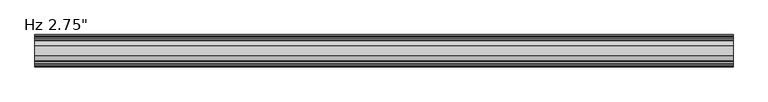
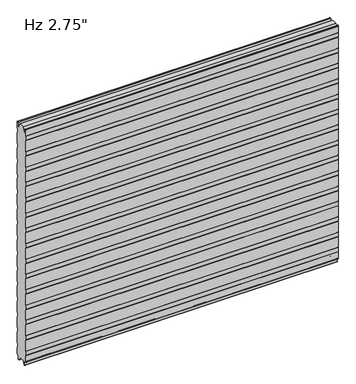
"""IFC4 building model written with IfcOpenShell, lengths in millimetres: plate geometry."""

from ifc_helpers import new_model, si_unit, frame, origin, place, context, project, spatial, polyline, circle_curve, source, transform, mapped, element, save
from ifc_brep_helpers import plane_surface, cylinder_surface, revolved_surface, advanced_brep


def plate_b61ff593(model_context):
    return source(origin(), model_context, "Body", "AdvancedBrep", [
        advanced_brep(
        [(-730.0, -67.7088405, 1097.7830195), (-730.0, -67.7088405, 1117.5660142), (-730.0, -68.8999956, 1118.6385351), (-730.0, -68.8999956, 1150.8100652), (-730.0, -66.9227271, 1152.7873337), (-730.0, -65.8806285, 1152.7873337), (-730.0, -63.90336, 1150.8100652), (-730.0, -63.90336, 1136.6216802), (-730.0, -61.3154835, 1134.0338036), (-730.0, -56.9950653, 1134.0338036), (-730.0, -56.4060718, 1133.4253365), (-730.0, -56.4060718, 1131.0482432), (-730.0, -55.4065979, 1131.0482432), (-730.0, -55.4065979, 1136.4905123), (-730.0, -46.1490821, 1152.525), (-730.0, -23.7509179, 1152.525), (-730.0, -14.4934021, 1136.4905123), (-730.0, -14.4934021, 1131.0482432), (-730.0, -13.4939282, 1131.0482432), (-730.0, -13.4939282, 1133.4253365), (-730.0, -12.9049347, 1134.0338036), (-730.0, -8.5845165, 1134.0338036), (-730.0, -5.99664, 1136.6216802), (-730.0, -5.99664, 1150.8100652), (-730.0, -4.0193715, 1152.7873337), (-730.0, -2.9772729, 1152.7873337), (-730.0, -1.0000044, 1150.8100652), (-730.0, -1.0000044, 1118.6385351), (-730.0, -2.1911595, 1117.5660142), (-730.0, -2.1911595, 1097.7830195), (-730.0, -1.0, 1096.7104947), (-730.0, -1.0, 1043.0159187), (-730.0, -2.1911595, 1041.9433939), (-730.0, -2.1911595, 1022.1603992), (-730.0, -1.0, 1021.0878744), (-730.0, -1.0, 967.3932985), (-730.0, -2.1911595, 966.3207736), (-730.0, -2.1911595, 946.537779), (-730.0, -1.0, 945.4652541), (-730.0, -1.0, 891.7706782), (-730.0, -2.1911595, 890.6981534), (-730.0, -2.1911595, 870.9151587), (-730.0, -1.0, 869.8426339), (-730.0, -1.0, 816.148058), (-730.0, -2.1911595, 815.0755331), (-730.0, -2.1911595, 795.2925384), (-730.0, -1.0, 794.2200136), (-730.0, -1.0, 740.5254377), (-730.0, -2.1911595, 739.4529129), (-730.0, -2.1911595, 719.6699182), (-730.0, -1.0, 718.5973933), (-730.0, -1.0, 664.9028174), (-730.0, -2.1911595, 663.8302926), (-730.0, -2.1911595, 644.0472979), (-730.0, -1.0, 642.9747731), (-730.0, -1.0, 589.2801972), (-730.0, -2.1911595, 588.2076723), (-730.0, -2.1911595, 568.4246776), (-730.0, -1.0, 567.3521528), (-730.0, -1.0, 513.6575769), (-730.0, -2.1911595, 512.5850521), (-730.0, -2.1911595, 492.8020574), (-730.0, -1.0, 491.7295325), (-730.0, -1.0, 438.0349566), (-730.0, -2.1911595, 436.9624318), (-730.0, -2.1911595, 417.1794371), (-730.0, -1.0, 416.1069123), (-730.0, -1.0, 362.4123364), (-730.0, -2.1911595, 361.3398115), (-730.0, -2.1911595, 341.5568169), (-730.0, -1.0, 340.484292), (-730.0, -1.0, 286.7897161), (-730.0, -2.1911595, 285.7171913), (-730.0, -2.1911595, 265.9341966), (-730.0, -1.0, 264.8616718), (-730.0, -1.0, 211.1670958), (-730.0, -2.1911595, 210.094571), (-730.0, -2.1911595, 190.3115763), (-730.0, -1.0, 189.2390515), (-730.0, -1.0, 135.5444756), (-730.0, -2.1911595, 134.4719507), (-730.0, -2.1911595, 114.6889561), (-730.0, -1.0, 113.6164312), (-730.0, -1.0, 59.9218553), (-730.0, -2.1911595, 58.8493305), (-730.0, -2.1911595, 39.0663358), (-730.0, -1.0000109, 37.993811), (-730.0, -1.0000109, 5.8272239), (-730.0, -2.9772849, 3.8499499), (-730.0, -5.2691749, 3.8499499), (-730.0, -9.246442, -0.1273173), (-730.0, -9.246442, -15.7237417), (-730.0, -9.8343189, -16.3116186), (-730.0, -12.9058679, -16.3116186), (-730.0, -13.4937446, -15.723742), (-730.0, -13.4937446, -13.3687064), (-730.0, -14.4937446, -13.3687064), (-730.0, -14.4937446, -15.6582851), (-730.0, -23.7509179, 0.0), (-730.0, -46.1490865, 0.0), (-730.0, -55.4062554, -15.6582851), (-730.0, -55.4062554, -13.3687064), (-730.0, -56.4062554, -13.3687064), (-730.0, -56.4062554, -15.723742), (-730.0, -56.9941321, -16.3116186), (-730.0, -60.0656811, -16.3116186), (-730.0, -60.653558, -15.7237417), (-730.0, -60.653558, -0.1273173), (-730.0, -64.6308251, 3.8499499), (-730.0, -66.9227151, 3.8499499), (-730.0, -68.8999891, 5.8272239), (-730.0, -68.8999891, 37.993811), (-730.0, -67.7088405, 39.0663358), (-730.0, -67.7088405, 58.8493305), (-730.0, -68.9, 59.9218553), (-730.0, -68.9, 113.6164312), (-730.0, -67.7088405, 114.6889561), (-730.0, -67.7088405, 134.4719507), (-730.0, -68.9, 135.5444756), (-730.0, -68.9, 189.2390515), (-730.0, -67.7088405, 190.3115763), (-730.0, -67.7088405, 210.094571), (-730.0, -68.9, 211.1670958), (-730.0, -68.9, 264.8616718), (-730.0, -67.7088405, 265.9341966), (-730.0, -67.7088405, 285.7171913), (-730.0, -68.9, 286.7897161), (-730.0, -68.9, 340.484292), (-730.0, -67.7088405, 341.5568169), (-730.0, -67.7088405, 361.3398115), (-730.0, -68.9, 362.4123364), (-730.0, -68.9, 416.1069123), (-730.0, -67.7088405, 417.1794371), (-730.0, -67.7088405, 436.9624318), (-730.0, -68.9, 438.0349566), (-730.0, -68.9, 491.7295325), (-730.0, -67.7088405, 492.8020574), (-730.0, -67.7088405, 512.5850521), (-730.0, -68.9, 513.6575769), (-730.0, -68.9, 567.3521528), (-730.0, -67.7088405, 568.4246776), (-730.0, -67.7088405, 588.2076723), (-730.0, -68.9, 589.2801972), (-730.0, -68.9, 642.9747731), (-730.0, -67.7088405, 644.0472979), (-730.0, -67.7088405, 663.8302926), (-730.0, -68.9, 664.9028174), (-730.0, -68.9, 718.5973933), (-730.0, -67.7088405, 719.6699182), (-730.0, -67.7088405, 739.4529129), (-730.0, -68.9, 740.5254377), (-730.0, -68.9, 794.2200136), (-730.0, -67.7088405, 795.2925384), (-730.0, -67.7088405, 815.0755331), (-730.0, -68.9, 816.148058), (-730.0, -68.9, 869.8426339), (-730.0, -67.7088405, 870.9151587), (-730.0, -67.7088405, 890.6981534), (-730.0, -68.9, 891.7706782), (-730.0, -68.9, 945.4652541), (-730.0, -67.7088405, 946.537779), (-730.0, -67.7088405, 966.3207736), (-730.0, -68.9, 967.3932985), (-730.0, -68.9, 1021.0878744), (-730.0, -67.7088405, 1022.1603992), (-730.0, -67.7088405, 1041.9433939), (-730.0, -68.9, 1043.0159187), (-730.0, -68.9, 1096.7104947), (730.0, -67.7088405, 1097.7830195), (730.0, -68.9, 1096.7104947), (730.0, -68.9, 1043.0159187), (730.0, -67.7088405, 1041.9433939), (730.0, -67.7088405, 1022.1603992), (730.0, -68.9, 1021.0878744), (730.0, -68.9, 967.3932985), (730.0, -67.7088405, 966.3207736), (730.0, -67.7088405, 946.537779), (730.0, -68.9, 945.4652541), (730.0, -68.9, 891.7706782), (730.0, -67.7088405, 890.6981534), (730.0, -67.7088405, 870.9151587), (730.0, -68.9, 869.8426339), (730.0, -68.9, 816.148058), (730.0, -67.7088405, 815.0755331), (730.0, -67.7088405, 795.2925384), (730.0, -68.9, 794.2200136), (730.0, -68.9, 740.5254377), (730.0, -67.7088405, 739.4529129), (730.0, -67.7088405, 719.6699182), (730.0, -68.9, 718.5973933), (730.0, -68.9, 664.9028174), (730.0, -67.7088405, 663.8302926), (730.0, -67.7088405, 644.0472979), (730.0, -68.9, 642.9747731), (730.0, -68.9, 589.2801972), (730.0, -67.7088405, 588.2076723), (730.0, -67.7088405, 568.4246776), (730.0, -68.9, 567.3521528), (730.0, -68.9, 513.6575769), (730.0, -67.7088405, 512.5850521), (730.0, -67.7088405, 492.8020574), (730.0, -68.9, 491.7295325), (730.0, -68.9, 438.0349566), (730.0, -67.7088405, 436.9624318), (730.0, -67.7088405, 417.1794371), (730.0, -68.9, 416.1069123), (730.0, -68.9, 362.4123364), (730.0, -67.7088405, 361.3398115), (730.0, -67.7088405, 341.5568169), (730.0, -68.9, 340.484292), (730.0, -68.9, 286.7897161), (730.0, -67.7088405, 285.7171913), (730.0, -67.7088405, 265.9341966), (730.0, -68.9, 264.8616718), (730.0, -68.9, 211.1670958), (730.0, -67.7088405, 210.094571), (730.0, -67.7088405, 190.3115763), (730.0, -68.9, 189.2390515), (730.0, -68.9, 135.5444756), (730.0, -67.7088405, 134.4719507), (730.0, -67.7088405, 114.6889561), (730.0, -68.9, 113.6164312), (730.0, -68.9, 59.9218553), (730.0, -67.7088405, 58.8493305), (730.0, -67.7088405, 39.0663358), (730.0, -68.8999891, 37.993811), (730.0, -68.8999891, 5.8272239), (730.0, -66.9227151, 3.8499499), (730.0, -64.6308251, 3.8499499), (730.0, -60.653558, -0.1273173), (730.0, -60.653558, -15.7237417), (730.0, -60.0656811, -16.3116186), (730.0, -56.9941321, -16.3116186), (730.0, -56.4062554, -15.723742), (730.0, -56.4062554, -13.3687064), (730.0, -55.4062554, -13.3687064), (730.0, -55.4062554, -15.6582851), (730.0, -46.1490821, 0.0), (730.0, -23.7509179, 0.0), (730.0, -14.4937446, -15.6582851), (730.0, -14.4937446, -13.3687064), (730.0, -13.4937446, -13.3687064), (730.0, -13.4937446, -15.723742), (730.0, -12.9058679, -16.3116186), (730.0, -9.8343189, -16.3116186), (730.0, -9.246442, -15.7237417), (730.0, -9.246442, -0.1273173), (730.0, -5.2691749, 3.8499499), (730.0, -2.9772849, 3.8499499), (730.0, -1.0000109, 5.8272239), (730.0, -1.0000109, 37.993811), (730.0, -2.1911595, 39.0663358), (730.0, -2.1911595, 58.8493305), (730.0, -1.0, 59.9218553), (730.0, -1.0, 113.6164312), (730.0, -2.1911595, 114.6889561), (730.0, -2.1911595, 134.4719507), (730.0, -1.0, 135.5444756), (730.0, -1.0, 189.2390515), (730.0, -2.1911595, 190.3115763), (730.0, -2.1911595, 210.094571), (730.0, -1.0, 211.1670958), (730.0, -1.0, 264.8616718), (730.0, -2.1911595, 265.9341966), (730.0, -2.1911595, 285.7171913), (730.0, -1.0, 286.7897161), (730.0, -1.0, 340.484292), (730.0, -2.1911595, 341.5568169), (730.0, -2.1911595, 361.3398115), (730.0, -1.0, 362.4123364), (730.0, -1.0, 416.1069123), (730.0, -2.1911595, 417.1794371), (730.0, -2.1911595, 436.9624318), (730.0, -1.0, 438.0349566), (730.0, -1.0, 491.7295325), (730.0, -2.1911595, 492.8020574), (730.0, -2.1911595, 512.5850521), (730.0, -1.0, 513.6575769), (730.0, -1.0, 567.3521528), (730.0, -2.1911595, 568.4246776), (730.0, -2.1911595, 588.2076723), (730.0, -1.0, 589.2801972), (730.0, -1.0, 642.9747731), (730.0, -2.1911595, 644.0472979), (730.0, -2.1911595, 663.8302926), (730.0, -1.0, 664.9028174), (730.0, -1.0, 718.5973933), (730.0, -2.1911595, 719.6699182), (730.0, -2.1911595, 739.4529129), (730.0, -1.0, 740.5254377), (730.0, -1.0, 794.2200136), (730.0, -2.1911595, 795.2925384), (730.0, -2.1911595, 815.0755331), (730.0, -1.0, 816.148058), (730.0, -1.0, 869.8426339), (730.0, -2.1911595, 870.9151587), (730.0, -2.1911595, 890.6981534), (730.0, -1.0, 891.7706782), (730.0, -1.0, 945.4652541), (730.0, -2.1911595, 946.537779), (730.0, -2.1911595, 966.3207736), (730.0, -1.0, 967.3932985), (730.0, -1.0, 1021.0878744), (730.0, -2.1911595, 1022.1603992), (730.0, -2.1911595, 1041.9433939), (730.0, -1.0, 1043.0159187), (730.0, -1.0, 1096.7104947), (730.0, -2.1911595, 1097.7830195), (730.0, -2.1911595, 1117.5660142), (730.0, -1.0000044, 1118.6385351), (730.0, -1.0000044, 1150.8100652), (730.0, -2.9772729, 1152.7873337), (730.0, -4.0193715, 1152.7873337), (730.0, -5.99664, 1150.8100652), (730.0, -5.99664, 1136.6216802), (730.0, -8.5845165, 1134.0338036), (730.0, -12.9049347, 1134.0338036), (730.0, -13.4939282, 1133.4253365), (730.0, -13.4939282, 1131.0482432), (730.0, -14.4934021, 1131.0482432), (730.0, -14.4934021, 1136.4905123), (730.0, -23.7509179, 1152.525), (730.0, -46.1490865, 1152.525), (730.0, -55.4065979, 1136.4905123), (730.0, -55.4065979, 1131.0482432), (730.0, -56.4060718, 1131.0482432), (730.0, -56.4060718, 1133.4253365), (730.0, -56.9950653, 1134.0338036), (730.0, -61.3154835, 1134.0338036), (730.0, -63.90336, 1136.6216802), (730.0, -63.90336, 1150.8100652), (730.0, -65.8806285, 1152.7873337), (730.0, -66.9227271, 1152.7873337), (730.0, -68.8999956, 1150.8100652), (730.0, -68.8999956, 1118.6385351), (730.0, -67.7088405, 1117.5660142)],
        [
            (0, 1),
            (1, 2),
            (2, 3),
            (3, 4, circle_curve(frame((-730.0, -66.9227271, 1150.8100652), z_axis=(-1.0, 0.0, 0.0), x_axis=(0.0, 0.0, -1.0)), 1.9772685)),
            (4, 5),
            (5, 6, circle_curve(frame((-730.0, -65.8806285, 1150.8100652), z_axis=(-1.0, 0.0, 0.0), x_axis=(0.0, 0.0, -1.0)), 1.9772685)),
            (6, 7),
            (7, 8, circle_curve(frame((-730.0, -61.3154835, 1136.6216802), z_axis=(1.0, 0.0, 0.0), x_axis=(0.0, 0.0, -1.0)), 2.5878765)),
            (8, 9),
            (9, 10, circle_curve(frame((-730.0, -56.9950653, 1133.4444985), z_axis=(-1.0, 0.0, 0.0), x_axis=(0.0, 0.0, -1.0)), 0.5893051)),
            (10, 11),
            (11, 12),
            (12, 13),
            (13, 14),
            (14, 15),
            (15, 16),
            (16, 17),
            (17, 18),
            (18, 19),
            (19, 20, circle_curve(frame((-730.0, -12.9049347, 1133.4444985), z_axis=(-1.0, 0.0, 0.0), x_axis=(0.0, 1.0, 0.0)), 0.5893051)),
            (20, 21),
            (21, 22, circle_curve(frame((-730.0, -8.5845165, 1136.6216802), z_axis=(1.0, 0.0, 0.0), x_axis=(0.0, 1.0, 0.0)), 2.5878765)),
            (22, 23),
            (23, 24, circle_curve(frame((-730.0, -4.0193715, 1150.8100652), z_axis=(-1.0, 0.0, 0.0), x_axis=(0.0, 1.0, 0.0)), 1.9772685)),
            (24, 25),
            (25, 26, circle_curve(frame((-730.0, -2.9772729, 1150.8100652), z_axis=(-1.0, 0.0, 0.0), x_axis=(0.0, 1.0, 0.0)), 1.9772685)),
            (26, 27),
            (27, 28),
            (28, 29),
            (29, 30),
            (30, 31),
            (31, 32),
            (32, 33),
            (33, 34),
            (34, 35),
            (35, 36),
            (36, 37),
            (37, 38),
            (38, 39),
            (39, 40),
            (40, 41),
            (41, 42),
            (42, 43),
            (43, 44),
            (44, 45),
            (45, 46),
            (46, 47),
            (47, 48),
            (48, 49),
            (49, 50),
            (50, 51),
            (51, 52),
            (52, 53),
            (53, 54),
            (54, 55),
            (55, 56),
            (56, 57),
            (57, 58),
            (58, 59),
            (59, 60),
            (60, 61),
            (61, 62),
            (62, 63),
            (63, 64),
            (64, 65),
            (65, 66),
            (66, 67),
            (67, 68),
            (68, 69),
            (69, 70),
            (70, 71),
            (71, 72),
            (72, 73),
            (73, 74),
            (74, 75),
            (75, 76),
            (76, 77),
            (77, 78),
            (78, 79),
            (79, 80),
            (80, 81),
            (81, 82),
            (82, 83),
            (83, 84),
            (84, 85),
            (85, 86),
            (86, 87),
            (87, 88, circle_curve(frame((-730.0, -2.9772849, 5.8272239), z_axis=(-1.0, 0.0, 0.0), x_axis=(0.0, 1.0, 0.0)), 1.977274)),
            (88, 89),
            (89, 90, circle_curve(frame((-730.0, -5.2691749, -0.1273173), z_axis=(1.0, 0.0, 0.0), x_axis=(0.0, 1.0, 0.0)), 3.9772671)),
            (90, 91),
            (91, 92, circle_curve(frame((-730.0, -9.8343189, -15.7237417), z_axis=(-1.0, 0.0, 0.0), x_axis=(0.0, 1.0, 0.0)), 0.5878769)),
            (92, 93),
            (93, 94, circle_curve(frame((-730.0, -12.9058679, -15.723742), z_axis=(-1.0, 0.0, 0.0), x_axis=(0.0, 1.0, 0.0)), 0.5878766)),
            (94, 95),
            (95, 96),
            (96, 97),
            (97, 98),
            (98, 99),
            (99, 100),
            (100, 101),
            (101, 102),
            (102, 103),
            (103, 104, circle_curve(frame((-730.0, -56.9941321, -15.723742), z_axis=(-1.0, 0.0, 0.0), x_axis=(0.0, 0.0, -1.0)), 0.5878766)),
            (104, 105),
            (105, 106, circle_curve(frame((-730.0, -60.0656811, -15.7237417), z_axis=(-1.0, 0.0, 0.0), x_axis=(0.0, 0.0, -1.0)), 0.5878769)),
            (106, 107),
            (107, 108, circle_curve(frame((-730.0, -64.6308251, -0.1273173), z_axis=(1.0, 0.0, 0.0), x_axis=(0.0, 0.0, -1.0)), 3.9772671)),
            (108, 109),
            (109, 110, circle_curve(frame((-730.0, -66.9227151, 5.8272239), z_axis=(-1.0, 0.0, 0.0), x_axis=(0.0, 0.0, -1.0)), 1.977274)),
            (110, 111),
            (111, 112),
            (112, 113),
            (113, 114),
            (114, 115),
            (115, 116),
            (116, 117),
            (117, 118),
            (118, 119),
            (119, 120),
            (120, 121),
            (121, 122),
            (122, 123),
            (123, 124),
            (124, 125),
            (125, 126),
            (126, 127),
            (127, 128),
            (128, 129),
            (129, 130),
            (130, 131),
            (131, 132),
            (132, 133),
            (133, 134),
            (134, 135),
            (135, 136),
            (136, 137),
            (137, 138),
            (138, 139),
            (139, 140),
            (140, 141),
            (141, 142),
            (142, 143),
            (143, 144),
            (144, 145),
            (145, 146),
            (146, 147),
            (147, 148),
            (148, 149),
            (149, 150),
            (150, 151),
            (151, 152),
            (152, 153),
            (153, 154),
            (154, 155),
            (155, 156),
            (156, 157),
            (157, 158),
            (158, 159),
            (159, 160),
            (160, 161),
            (161, 162),
            (162, 163),
            (163, 164),
            (164, 165),
            (165, 166),
            (166, 167),
            (167, 0),
            (168, 169),
            (169, 170),
            (170, 171),
            (171, 172),
            (172, 173),
            (173, 174),
            (174, 175),
            (175, 176),
            (176, 177),
            (177, 178),
            (178, 179),
            (179, 180),
            (180, 181),
            (181, 182),
            (182, 183),
            (183, 184),
            (184, 185),
            (185, 186),
            (186, 187),
            (187, 188),
            (188, 189),
            (189, 190),
            (190, 191),
            (191, 192),
            (192, 193),
            (193, 194),
            (194, 195),
            (195, 196),
            (196, 197),
            (197, 198),
            (198, 199),
            (199, 200),
            (200, 201),
            (201, 202),
            (202, 203),
            (203, 204),
            (204, 205),
            (205, 206),
            (206, 207),
            (207, 208),
            (208, 209),
            (209, 210),
            (210, 211),
            (211, 212),
            (212, 213),
            (213, 214),
            (214, 215),
            (215, 216),
            (216, 217),
            (217, 218),
            (218, 219),
            (219, 220),
            (220, 221),
            (221, 222),
            (222, 223),
            (223, 224),
            (224, 225),
            (225, 226),
            (226, 227, circle_curve(frame((730.0, -66.9227151, 5.8272239), z_axis=(1.0, 0.0, 0.0), x_axis=(0.0, 0.0, -1.0)), 1.977274)),
            (227, 228),
            (228, 229, circle_curve(frame((730.0, -64.6308251, -0.1273173), z_axis=(-1.0, 0.0, 0.0), x_axis=(0.0, 0.0, -1.0)), 3.9772671)),
            (229, 230),
            (230, 231, circle_curve(frame((730.0, -60.0656811, -15.7237417), z_axis=(1.0, 0.0, 0.0), x_axis=(0.0, 0.0, -1.0)), 0.5878769)),
            (231, 232),
            (232, 233, circle_curve(frame((730.0, -56.9941321, -15.723742), z_axis=(1.0, 0.0, 0.0), x_axis=(0.0, 0.0, -1.0)), 0.5878766)),
            (233, 234),
            (234, 235),
            (235, 236),
            (236, 237),
            (237, 238),
            (238, 239),
            (239, 240),
            (240, 241),
            (241, 242),
            (242, 243, circle_curve(frame((730.0, -12.9058679, -15.723742), z_axis=(1.0, 0.0, 0.0), x_axis=(0.0, 1.0, 0.0)), 0.5878766)),
            (243, 244),
            (244, 245, circle_curve(frame((730.0, -9.8343189, -15.7237417), z_axis=(1.0, 0.0, 0.0), x_axis=(0.0, 1.0, 0.0)), 0.5878769)),
            (245, 246),
            (246, 247, circle_curve(frame((730.0, -5.2691749, -0.1273173), z_axis=(-1.0, 0.0, 0.0), x_axis=(0.0, 1.0, 0.0)), 3.9772671)),
            (247, 248),
            (248, 249, circle_curve(frame((730.0, -2.9772849, 5.8272239), z_axis=(1.0, 0.0, 0.0), x_axis=(0.0, 1.0, 0.0)), 1.977274)),
            (249, 250),
            (250, 251),
            (251, 252),
            (252, 253),
            (253, 254),
            (254, 255),
            (255, 256),
            (256, 257),
            (257, 258),
            (258, 259),
            (259, 260),
            (260, 261),
            (261, 262),
            (262, 263),
            (263, 264),
            (264, 265),
            (265, 266),
            (266, 267),
            (267, 268),
            (268, 269),
            (269, 270),
            (270, 271),
            (271, 272),
            (272, 273),
            (273, 274),
            (274, 275),
            (275, 276),
            (276, 277),
            (277, 278),
            (278, 279),
            (279, 280),
            (280, 281),
            (281, 282),
            (282, 283),
            (283, 284),
            (284, 285),
            (285, 286),
            (286, 287),
            (287, 288),
            (288, 289),
            (289, 290),
            (290, 291),
            (291, 292),
            (292, 293),
            (293, 294),
            (294, 295),
            (295, 296),
            (296, 297),
            (297, 298),
            (298, 299),
            (299, 300),
            (300, 301),
            (301, 302),
            (302, 303),
            (303, 304),
            (304, 305),
            (305, 306),
            (306, 307),
            (307, 308),
            (308, 309),
            (309, 310),
            (310, 311, circle_curve(frame((730.0, -2.9772729, 1150.8100652), z_axis=(1.0, 0.0, 0.0), x_axis=(0.0, 1.0, 0.0)), 1.9772685)),
            (311, 312),
            (312, 313, circle_curve(frame((730.0, -4.0193715, 1150.8100652), z_axis=(1.0, 0.0, 0.0), x_axis=(0.0, 1.0, 0.0)), 1.9772685)),
            (313, 314),
            (314, 315, circle_curve(frame((730.0, -8.5845165, 1136.6216802), z_axis=(-1.0, 0.0, 0.0), x_axis=(0.0, 1.0, 0.0)), 2.5878765)),
            (315, 316),
            (316, 317, circle_curve(frame((730.0, -12.9049347, 1133.4444985), z_axis=(1.0, 0.0, 0.0), x_axis=(0.0, 1.0, 0.0)), 0.5893051)),
            (317, 318),
            (318, 319),
            (319, 320),
            (320, 321),
            (321, 322),
            (322, 323),
            (323, 324),
            (324, 325),
            (325, 326),
            (326, 327, circle_curve(frame((730.0, -56.9950653, 1133.4444985), z_axis=(1.0, 0.0, 0.0), x_axis=(0.0, 0.0, -1.0)), 0.5893051)),
            (327, 328),
            (328, 329, circle_curve(frame((730.0, -61.3154835, 1136.6216802), z_axis=(-1.0, 0.0, 0.0), x_axis=(0.0, 0.0, -1.0)), 2.5878765)),
            (329, 330),
            (330, 331, circle_curve(frame((730.0, -65.8806285, 1150.8100652), z_axis=(1.0, 0.0, 0.0), x_axis=(0.0, 0.0, -1.0)), 1.9772685)),
            (331, 332),
            (332, 333, circle_curve(frame((730.0, -66.9227271, 1150.8100652), z_axis=(1.0, 0.0, 0.0), x_axis=(0.0, 0.0, -1.0)), 1.9772685)),
            (333, 334),
            (334, 335),
            (335, 168),
            (28, 308),
            (307, 29),
            (27, 309),
            (26, 310),
            (25, 311),
            (24, 312),
            (23, 313),
            (22, 314),
            (21, 315),
            (20, 316),
            (19, 317),
            (18, 318),
            (17, 319),
            (16, 320),
            (15, 321),
            (97, 239),
            (238, 98),
            (96, 240),
            (95, 241),
            (94, 242),
            (93, 243),
            (92, 244),
            (91, 245),
            (90, 246),
            (89, 247),
            (88, 248),
            (87, 249),
            (86, 250),
            (85, 251),
            (84, 252),
            (83, 253),
            (82, 254),
            (81, 255),
            (80, 256),
            (79, 257),
            (78, 258),
            (77, 259),
            (76, 260),
            (75, 261),
            (74, 262),
            (73, 263),
            (72, 264),
            (71, 265),
            (70, 266),
            (69, 267),
            (68, 268),
            (67, 269),
            (66, 270),
            (65, 271),
            (64, 272),
            (63, 273),
            (62, 274),
            (61, 275),
            (60, 276),
            (59, 277),
            (58, 278),
            (57, 279),
            (56, 280),
            (55, 281),
            (54, 282),
            (53, 283),
            (52, 284),
            (51, 285),
            (50, 286),
            (49, 287),
            (48, 288),
            (47, 289),
            (46, 290),
            (45, 291),
            (44, 292),
            (43, 293),
            (42, 294),
            (41, 295),
            (40, 296),
            (39, 297),
            (38, 298),
            (37, 299),
            (36, 300),
            (35, 301),
            (34, 302),
            (33, 303),
            (32, 304),
            (31, 305),
            (30, 306),
            (14, 322),
            (237, 99),
            (167, 169),
            (168, 0),
            (166, 170),
            (165, 171),
            (164, 172),
            (163, 173),
            (162, 174),
            (161, 175),
            (160, 176),
            (159, 177),
            (158, 178),
            (157, 179),
            (156, 180),
            (155, 181),
            (154, 182),
            (153, 183),
            (152, 184),
            (151, 185),
            (150, 186),
            (149, 187),
            (148, 188),
            (147, 189),
            (146, 190),
            (145, 191),
            (144, 192),
            (143, 193),
            (142, 194),
            (141, 195),
            (140, 196),
            (139, 197),
            (138, 198),
            (137, 199),
            (136, 200),
            (135, 201),
            (134, 202),
            (133, 203),
            (132, 204),
            (131, 205),
            (130, 206),
            (129, 207),
            (128, 208),
            (127, 209),
            (126, 210),
            (125, 211),
            (124, 212),
            (123, 213),
            (122, 214),
            (121, 215),
            (120, 216),
            (119, 217),
            (118, 218),
            (117, 219),
            (116, 220),
            (115, 221),
            (114, 222),
            (113, 223),
            (112, 224),
            (111, 225),
            (110, 226),
            (109, 227),
            (108, 228),
            (107, 229),
            (106, 230),
            (105, 231),
            (104, 232),
            (103, 233),
            (102, 234),
            (101, 235),
            (100, 236),
            (13, 323),
            (12, 324),
            (11, 325),
            (10, 326),
            (9, 327),
            (8, 328),
            (7, 329),
            (6, 330),
            (5, 331),
            (4, 332),
            (3, 333),
            (2, 334),
            (1, 335),
        ],
        [
            plane_surface(frame((-730.0, -68.9, 576.2625), z_axis=(-1.0, 0.0, 0.0), x_axis=(0.0, -1.0, 0.0))),
            plane_surface(frame((730.0, -68.9, 576.2625), z_axis=(1.0, 0.0, 0.0), x_axis=(0.0, -1.0, 0.0))),
            plane_surface(frame((-730.0, -2.1911595, 1097.7830195), z_axis=(0.0, 1.0, 0.0), x_axis=(1.0, 0.0, 0.0))),
            plane_surface(frame((-730.0, -2.1911595, 1117.5660142), z_axis=(0.0, 0.669130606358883, -0.7431448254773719), x_axis=(1.0, 0.0, 0.0))),
            plane_surface(frame((-730.0, -1.0000044, 1118.6385351), z_axis=(0.0, 1.0, 0.0), x_axis=(1.0, 0.0, 0.0))),
            cylinder_surface(frame((-730.0, -2.9772729, 1150.8100652), z_axis=(-1.0, 0.0, 0.0), x_axis=(0.0, 1.0, 0.0)), 1.9772685),
            plane_surface(frame((-730.0, -2.9772729, 1152.7873337), z_axis=(0.0, 0.0, 1.0), x_axis=(1.0, 0.0, 0.0))),
            cylinder_surface(frame((-730.0, -4.0193715, 1150.8100652), z_axis=(-1.0, 0.0, 0.0), x_axis=(0.0, 1.0, 0.0)), 1.9772685),
            plane_surface(frame((-730.0, -5.99664, 1150.8100652), z_axis=(0.0, -1.0, 0.0), x_axis=(1.0, 0.0, 0.0))),
            revolved_surface(polyline([(730.0, -5.996639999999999, 1136.6216802), (-730.0, -5.996639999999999, 1136.6216802)]), (-730.0, -8.5845165, 1136.6216802), (1.0, 0.0, 0.0)),
            plane_surface(frame((-730.0, -8.5845165, 1134.0338036), z_axis=(0.0, 0.0, 1.0), x_axis=(1.0, 0.0, 0.0))),
            cylinder_surface(frame((-730.0, -12.9049347, 1133.4444985), z_axis=(-1.0, 0.0, 0.0), x_axis=(0.0, 1.0, 0.0)), 0.5893051),
            plane_surface(frame((-730.0, -13.4939282, 1133.4253365), z_axis=(0.0, -1.0, 0.0), x_axis=(1.0, 0.0, 0.0))),
            plane_surface(frame((-730.0, -13.4939282, 1131.0482432), z_axis=(0.0, 0.0, 1.0), x_axis=(1.0, 0.0, 0.0))),
            plane_surface(frame((-730.0, -14.4934021, 1131.0482432), z_axis=(0.0, 1.0, 0.0), x_axis=(1.0, 0.0, 0.0))),
            plane_surface(frame((-730.0, -14.4934021, 1136.4905123), z_axis=(0.0, 0.8660254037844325, 0.5000000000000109), x_axis=(1.0, 0.0, 0.0))),
            plane_surface(frame((-730.0, -23.7509179, 0.0), z_axis=(0.0, -0.8608169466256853, -0.5089147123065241), x_axis=(1.0, 0.0, 0.0))),
            plane_surface(frame((-730.0, -14.4937446, -15.6582851), z_axis=(0.0, 1.0, 0.0), x_axis=(1.0, 0.0, 0.0))),
            plane_surface(frame((-730.0, -14.4937446, -13.3687064), z_axis=(0.0, 0.0, -1.0), x_axis=(1.0, 0.0, 0.0))),
            plane_surface(frame((-730.0, -13.4937446, -13.3687064), z_axis=(0.0, -1.0, 0.0), x_axis=(1.0, 0.0, 0.0))),
            cylinder_surface(frame((-730.0, -12.9058679, -15.723742), z_axis=(-1.0, 0.0, 0.0), x_axis=(0.0, 1.0, 0.0)), 0.5878766),
            plane_surface(frame((-730.0, -12.9058679, -16.3116186), z_axis=(0.0, 0.0, -1.0), x_axis=(1.0, 0.0, 0.0))),
            cylinder_surface(frame((-730.0, -9.8343189, -15.7237417), z_axis=(-1.0, 0.0, 0.0), x_axis=(0.0, 1.0, 0.0)), 0.5878769),
            plane_surface(frame((-730.0, -9.246442, -15.7237417), z_axis=(0.0, 1.0, 0.0), x_axis=(1.0, 0.0, 0.0))),
            revolved_surface(polyline([(730.0, -1.2919078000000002, -0.1273173), (-730.0, -1.2919078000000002, -0.1273173)]), (-730.0, -5.2691749, -0.1273173), (1.0, 0.0, 0.0)),
            plane_surface(frame((-730.0, -5.2691749, 3.8499499), z_axis=(0.0, 0.0, -1.0), x_axis=(1.0, 0.0, 0.0))),
            cylinder_surface(frame((-730.0, -2.9772849, 5.8272239), z_axis=(-1.0, 0.0, 0.0), x_axis=(0.0, 1.0, 0.0)), 1.977274),
            plane_surface(frame((-730.0, -1.0000109, 5.8272239), z_axis=(0.0, 1.0, 0.0), x_axis=(1.0, 0.0, 0.0))),
            plane_surface(frame((-730.0, -1.0000109, 37.993811), z_axis=(0.0, 0.6691339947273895, 0.7431417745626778), x_axis=(1.0, 0.0, 0.0))),
            plane_surface(frame((-730.0, -2.1911595, 39.0663358), z_axis=(0.0, 1.0, 0.0), x_axis=(1.0, 0.0, 0.0))),
            plane_surface(frame((-730.0, -2.1911595, 58.8493305), z_axis=(0.0, 0.6691306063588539, -0.7431448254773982), x_axis=(1.0, 0.0, 0.0))),
            plane_surface(frame((-730.0, -1.0, 59.9218553), z_axis=(0.0, 1.0, 0.0), x_axis=(1.0, 0.0, 0.0))),
            plane_surface(frame((-730.0, -1.0, 113.6164312), z_axis=(0.0, 0.6691306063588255, 0.7431448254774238), x_axis=(1.0, 0.0, 0.0))),
            plane_surface(frame((-730.0, -2.1911595, 114.6889561), z_axis=(0.0, 1.0, 0.0), x_axis=(1.0, 0.0, 0.0))),
            plane_surface(frame((-730.0, -2.1911595, 134.4719507), z_axis=(0.0, 0.6691306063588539, -0.7431448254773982), x_axis=(1.0, 0.0, 0.0))),
            plane_surface(frame((-730.0, -1.0, 135.5444756), z_axis=(0.0, 1.0, 0.0), x_axis=(1.0, 0.0, 0.0))),
            plane_surface(frame((-730.0, -1.0, 189.2390515), z_axis=(0.0, 0.669130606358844, 0.743144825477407), x_axis=(1.0, 0.0, 0.0))),
            plane_surface(frame((-730.0, -2.1911595, 190.3115763), z_axis=(0.0, 1.0, 0.0), x_axis=(1.0, 0.0, 0.0))),
            plane_surface(frame((-730.0, -2.1911595, 210.094571), z_axis=(0.0, 0.6691306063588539, -0.7431448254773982), x_axis=(1.0, 0.0, 0.0))),
            plane_surface(frame((-730.0, -1.0, 211.1670958), z_axis=(0.0, 1.0, 0.0), x_axis=(1.0, 0.0, 0.0))),
            plane_surface(frame((-730.0, -1.0, 264.8616718), z_axis=(0.0, 0.6691306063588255, 0.7431448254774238), x_axis=(1.0, 0.0, 0.0))),
            plane_surface(frame((-730.0, -2.1911595, 265.9341966), z_axis=(0.0, 1.0, 0.0), x_axis=(1.0, 0.0, 0.0))),
            plane_surface(frame((-730.0, -2.1911595, 285.7171913), z_axis=(0.0, 0.6691306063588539, -0.7431448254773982), x_axis=(1.0, 0.0, 0.0))),
            plane_surface(frame((-730.0, -1.0, 286.7897161), z_axis=(0.0, 1.0, 0.0), x_axis=(1.0, 0.0, 0.0))),
            plane_surface(frame((-730.0, -1.0, 340.484292), z_axis=(0.0, 0.669130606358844, 0.743144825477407), x_axis=(1.0, 0.0, 0.0))),
            plane_surface(frame((-730.0, -2.1911595, 341.5568169), z_axis=(0.0, 1.0, 0.0), x_axis=(1.0, 0.0, 0.0))),
            plane_surface(frame((-730.0, -2.1911595, 361.3398115), z_axis=(0.0, 0.6691306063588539, -0.7431448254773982), x_axis=(1.0, 0.0, 0.0))),
            plane_surface(frame((-730.0, -1.0, 362.4123364), z_axis=(0.0, 1.0, 0.0), x_axis=(1.0, 0.0, 0.0))),
            plane_surface(frame((-730.0, -1.0, 416.1069123), z_axis=(0.0, 0.669130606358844, 0.743144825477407), x_axis=(1.0, 0.0, 0.0))),
            plane_surface(frame((-730.0, -2.1911595, 417.1794371), z_axis=(0.0, 1.0, 0.0), x_axis=(1.0, 0.0, 0.0))),
            plane_surface(frame((-730.0, -2.1911595, 436.9624318), z_axis=(0.0, 0.6691306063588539, -0.7431448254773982), x_axis=(1.0, 0.0, 0.0))),
            plane_surface(frame((-730.0, -1.0, 438.0349566), z_axis=(0.0, 1.0, 0.0), x_axis=(1.0, 0.0, 0.0))),
            plane_surface(frame((-730.0, -1.0, 491.7295325), z_axis=(0.0, 0.6691306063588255, 0.7431448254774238), x_axis=(1.0, 0.0, 0.0))),
            plane_surface(frame((-730.0, -2.1911595, 492.8020574), z_axis=(0.0, 1.0, 0.0), x_axis=(1.0, 0.0, 0.0))),
            plane_surface(frame((-730.0, -2.1911595, 512.5850521), z_axis=(0.0, 0.6691306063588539, -0.7431448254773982), x_axis=(1.0, 0.0, 0.0))),
            plane_surface(frame((-730.0, -1.0, 513.6575769), z_axis=(0.0, 1.0, 0.0), x_axis=(1.0, 0.0, 0.0))),
            plane_surface(frame((-730.0, -1.0, 567.3521528), z_axis=(0.0, 0.669130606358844, 0.743144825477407), x_axis=(1.0, 0.0, 0.0))),
            plane_surface(frame((-730.0, -2.1911595, 568.4246776), z_axis=(0.0, 1.0, 0.0), x_axis=(1.0, 0.0, 0.0))),
            plane_surface(frame((-730.0, -2.1911595, 588.2076723), z_axis=(0.0, 0.6691306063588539, -0.7431448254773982), x_axis=(1.0, 0.0, 0.0))),
            plane_surface(frame((-730.0, -1.0, 589.2801972), z_axis=(0.0, 1.0, 0.0), x_axis=(1.0, 0.0, 0.0))),
            plane_surface(frame((-730.0, -1.0, 642.9747731), z_axis=(0.0, 0.6691306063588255, 0.7431448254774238), x_axis=(1.0, 0.0, 0.0))),
            plane_surface(frame((-730.0, -2.1911595, 644.0472979), z_axis=(0.0, 1.0, 0.0), x_axis=(1.0, 0.0, 0.0))),
            plane_surface(frame((-730.0, -2.1911595, 663.8302926), z_axis=(0.0, 0.6691306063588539, -0.7431448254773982), x_axis=(1.0, 0.0, 0.0))),
            plane_surface(frame((-730.0, -1.0, 664.9028174), z_axis=(0.0, 1.0, 0.0), x_axis=(1.0, 0.0, 0.0))),
            plane_surface(frame((-730.0, -1.0, 718.5973933), z_axis=(0.0, 0.669130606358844, 0.743144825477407), x_axis=(1.0, 0.0, 0.0))),
            plane_surface(frame((-730.0, -2.1911595, 719.6699182), z_axis=(0.0, 1.0, 0.0), x_axis=(1.0, 0.0, 0.0))),
            plane_surface(frame((-730.0, -2.1911595, 739.4529129), z_axis=(0.0, 0.6691306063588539, -0.7431448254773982), x_axis=(1.0, 0.0, 0.0))),
            plane_surface(frame((-730.0, -1.0, 740.5254377), z_axis=(0.0, 1.0, 0.0), x_axis=(1.0, 0.0, 0.0))),
            plane_surface(frame((-730.0, -1.0, 794.2200136), z_axis=(0.0, 0.6691306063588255, 0.7431448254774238), x_axis=(1.0, 0.0, 0.0))),
            plane_surface(frame((-730.0, -2.1911595, 795.2925384), z_axis=(0.0, 1.0, 0.0), x_axis=(1.0, 0.0, 0.0))),
            plane_surface(frame((-730.0, -2.1911595, 815.0755331), z_axis=(0.0, 0.6691306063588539, -0.7431448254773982), x_axis=(1.0, 0.0, 0.0))),
            plane_surface(frame((-730.0, -1.0, 816.148058), z_axis=(0.0, 1.0, 0.0), x_axis=(1.0, 0.0, 0.0))),
            plane_surface(frame((-730.0, -1.0, 869.8426339), z_axis=(0.0, 0.669130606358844, 0.743144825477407), x_axis=(1.0, 0.0, 0.0))),
            plane_surface(frame((-730.0, -2.1911595, 870.9151587), z_axis=(0.0, 1.0, 0.0), x_axis=(1.0, 0.0, 0.0))),
            plane_surface(frame((-730.0, -2.1911595, 890.6981534), z_axis=(0.0, 0.6691306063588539, -0.7431448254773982), x_axis=(1.0, 0.0, 0.0))),
            plane_surface(frame((-730.0, -1.0, 891.7706782), z_axis=(0.0, 1.0, 0.0), x_axis=(1.0, 0.0, 0.0))),
            plane_surface(frame((-730.0, -1.0, 945.4652541), z_axis=(0.0, 0.669130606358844, 0.743144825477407), x_axis=(1.0, 0.0, 0.0))),
            plane_surface(frame((-730.0, -2.1911595, 946.537779), z_axis=(0.0, 1.0, 0.0), x_axis=(1.0, 0.0, 0.0))),
            plane_surface(frame((-730.0, -2.1911595, 966.3207736), z_axis=(0.0, 0.6691306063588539, -0.7431448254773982), x_axis=(1.0, 0.0, 0.0))),
            plane_surface(frame((-730.0, -1.0, 967.3932985), z_axis=(0.0, 1.0, 0.0), x_axis=(1.0, 0.0, 0.0))),
            plane_surface(frame((-730.0, -1.0, 1021.0878744), z_axis=(0.0, 0.669130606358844, 0.743144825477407), x_axis=(1.0, 0.0, 0.0))),
            plane_surface(frame((-730.0, -2.1911595, 1022.1603992), z_axis=(0.0, 1.0, 0.0), x_axis=(1.0, 0.0, 0.0))),
            plane_surface(frame((-730.0, -2.1911595, 1041.9433939), z_axis=(0.0, 0.6691306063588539, -0.7431448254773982), x_axis=(1.0, 0.0, 0.0))),
            plane_surface(frame((-730.0, -1.0, 1043.0159187), z_axis=(0.0, 1.0, 0.0), x_axis=(1.0, 0.0, 0.0))),
            plane_surface(frame((-730.0, -1.0, 1096.7104947), z_axis=(0.0, 0.669130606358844, 0.743144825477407), x_axis=(1.0, 0.0, 0.0))),
            plane_surface(frame((-730.0, -46.1490865, 1152.525), z_axis=(0.0, 0.0, 1.0), x_axis=(-1.0, 0.0, 0.0))),
            plane_surface(frame((-730.0, -46.1490865, 0.0), z_axis=(0.0, 0.0, -1.0), x_axis=(1.0, 0.0, 0.0))),
            plane_surface(frame((-730.0, -67.7088405, 1097.7830195), z_axis=(0.0, -0.6691306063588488, 0.7431448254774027), x_axis=(1.0, 0.0, 0.0))),
            plane_surface(frame((-730.0, -68.9, 1096.7104947), z_axis=(0.0, -1.0, 0.0), x_axis=(1.0, 0.0, 0.0))),
            plane_surface(frame((-730.0, -68.9, 1043.0159187), z_axis=(0.0, -0.6691306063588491, -0.7431448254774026), x_axis=(1.0, 0.0, 0.0))),
            plane_surface(frame((-730.0, -67.7088405, 1041.9433939), z_axis=(0.0, -1.0, 0.0), x_axis=(1.0, 0.0, 0.0))),
            plane_surface(frame((-730.0, -67.7088405, 1022.1603992), z_axis=(0.0, -0.6691306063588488, 0.7431448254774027), x_axis=(1.0, 0.0, 0.0))),
            plane_surface(frame((-730.0, -68.9, 1021.0878744), z_axis=(0.0, -1.0, 0.0), x_axis=(1.0, 0.0, 0.0))),
            plane_surface(frame((-730.0, -68.9, 967.3932985), z_axis=(0.0, -0.6691306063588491, -0.7431448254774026), x_axis=(1.0, 0.0, 0.0))),
            plane_surface(frame((-730.0, -67.7088405, 966.3207736), z_axis=(0.0, -1.0, 0.0), x_axis=(1.0, 0.0, 0.0))),
            plane_surface(frame((-730.0, -67.7088405, 946.537779), z_axis=(0.0, -0.6691306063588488, 0.7431448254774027), x_axis=(1.0, 0.0, 0.0))),
            plane_surface(frame((-730.0, -68.9, 945.4652541), z_axis=(0.0, -1.0, 0.0), x_axis=(1.0, 0.0, 0.0))),
            plane_surface(frame((-730.0, -68.9, 891.7706782), z_axis=(0.0, -0.6691306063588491, -0.7431448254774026), x_axis=(1.0, 0.0, 0.0))),
            plane_surface(frame((-730.0, -67.7088405, 890.6981534), z_axis=(0.0, -1.0, 0.0), x_axis=(1.0, 0.0, 0.0))),
            plane_surface(frame((-730.0, -67.7088405, 870.9151587), z_axis=(0.0, -0.6691306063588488, 0.7431448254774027), x_axis=(1.0, 0.0, 0.0))),
            plane_surface(frame((-730.0, -68.9, 869.8426339), z_axis=(0.0, -1.0, 0.0), x_axis=(1.0, 0.0, 0.0))),
            plane_surface(frame((-730.0, -68.9, 816.148058), z_axis=(0.0, -0.6691306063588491, -0.7431448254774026), x_axis=(1.0, 0.0, 0.0))),
            plane_surface(frame((-730.0, -67.7088405, 815.0755331), z_axis=(0.0, -1.0, 0.0), x_axis=(1.0, 0.0, 0.0))),
            plane_surface(frame((-730.0, -67.7088405, 795.2925384), z_axis=(0.0, -0.6691306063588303, 0.7431448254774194), x_axis=(1.0, 0.0, 0.0))),
            plane_surface(frame((-730.0, -68.9, 794.2200136), z_axis=(0.0, -1.0, 0.0), x_axis=(1.0, 0.0, 0.0))),
            plane_surface(frame((-730.0, -68.9, 740.5254377), z_axis=(0.0, -0.6691306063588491, -0.7431448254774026), x_axis=(1.0, 0.0, 0.0))),
            plane_surface(frame((-730.0, -67.7088405, 739.4529129), z_axis=(0.0, -1.0, 0.0), x_axis=(1.0, 0.0, 0.0))),
            plane_surface(frame((-730.0, -67.7088405, 719.6699182), z_axis=(0.0, -0.6691306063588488, 0.7431448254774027), x_axis=(1.0, 0.0, 0.0))),
            plane_surface(frame((-730.0, -68.9, 718.5973933), z_axis=(0.0, -1.0, 0.0), x_axis=(1.0, 0.0, 0.0))),
            plane_surface(frame((-730.0, -68.9, 664.9028174), z_axis=(0.0, -0.6691306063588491, -0.7431448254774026), x_axis=(1.0, 0.0, 0.0))),
            plane_surface(frame((-730.0, -67.7088405, 663.8302926), z_axis=(0.0, -1.0, 0.0), x_axis=(1.0, 0.0, 0.0))),
            plane_surface(frame((-730.0, -67.7088405, 644.0472979), z_axis=(0.0, -0.6691306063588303, 0.7431448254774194), x_axis=(1.0, 0.0, 0.0))),
            plane_surface(frame((-730.0, -68.9, 642.9747731), z_axis=(0.0, -1.0, 0.0), x_axis=(1.0, 0.0, 0.0))),
            plane_surface(frame((-730.0, -68.9, 589.2801972), z_axis=(0.0, -0.6691306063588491, -0.7431448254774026), x_axis=(1.0, 0.0, 0.0))),
            plane_surface(frame((-730.0, -67.7088405, 588.2076723), z_axis=(0.0, -1.0, 0.0), x_axis=(1.0, 0.0, 0.0))),
            plane_surface(frame((-730.0, -67.7088405, 568.4246776), z_axis=(0.0, -0.6691306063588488, 0.7431448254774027), x_axis=(1.0, 0.0, 0.0))),
            plane_surface(frame((-730.0, -68.9, 567.3521528), z_axis=(0.0, -1.0, 0.0), x_axis=(1.0, 0.0, 0.0))),
            plane_surface(frame((-730.0, -68.9, 513.6575769), z_axis=(0.0, -0.6691306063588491, -0.7431448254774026), x_axis=(1.0, 0.0, 0.0))),
            plane_surface(frame((-730.0, -67.7088405, 512.5850521), z_axis=(0.0, -1.0, 0.0), x_axis=(1.0, 0.0, 0.0))),
            plane_surface(frame((-730.0, -67.7088405, 492.8020574), z_axis=(0.0, -0.6691306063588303, 0.7431448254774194), x_axis=(1.0, 0.0, 0.0))),
            plane_surface(frame((-730.0, -68.9, 491.7295325), z_axis=(0.0, -1.0, 0.0), x_axis=(1.0, 0.0, 0.0))),
            plane_surface(frame((-730.0, -68.9, 438.0349566), z_axis=(0.0, -0.6691306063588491, -0.7431448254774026), x_axis=(1.0, 0.0, 0.0))),
            plane_surface(frame((-730.0, -67.7088405, 436.9624318), z_axis=(0.0, -1.0, 0.0), x_axis=(1.0, 0.0, 0.0))),
            plane_surface(frame((-730.0, -67.7088405, 417.1794371), z_axis=(0.0, -0.6691306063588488, 0.7431448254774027), x_axis=(1.0, 0.0, 0.0))),
            plane_surface(frame((-730.0, -68.9, 416.1069123), z_axis=(0.0, -1.0, 0.0), x_axis=(1.0, 0.0, 0.0))),
            plane_surface(frame((-730.0, -68.9, 362.4123364), z_axis=(0.0, -0.6691306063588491, -0.7431448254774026), x_axis=(1.0, 0.0, 0.0))),
            plane_surface(frame((-730.0, -67.7088405, 361.3398115), z_axis=(0.0, -1.0, 0.0), x_axis=(1.0, 0.0, 0.0))),
            plane_surface(frame((-730.0, -67.7088405, 341.5568169), z_axis=(0.0, -0.6691306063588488, 0.7431448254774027), x_axis=(1.0, 0.0, 0.0))),
            plane_surface(frame((-730.0, -68.9, 340.484292), z_axis=(0.0, -1.0, 0.0), x_axis=(1.0, 0.0, 0.0))),
            plane_surface(frame((-730.0, -68.9, 286.7897161), z_axis=(0.0, -0.6691306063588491, -0.7431448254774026), x_axis=(1.0, 0.0, 0.0))),
            plane_surface(frame((-730.0, -67.7088405, 285.7171913), z_axis=(0.0, -1.0, 0.0), x_axis=(1.0, 0.0, 0.0))),
            plane_surface(frame((-730.0, -67.7088405, 265.9341966), z_axis=(0.0, -0.6691306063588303, 0.7431448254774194), x_axis=(1.0, 0.0, 0.0))),
            plane_surface(frame((-730.0, -68.9, 264.8616718), z_axis=(0.0, -1.0, 0.0), x_axis=(1.0, 0.0, 0.0))),
            plane_surface(frame((-730.0, -68.9, 211.1670958), z_axis=(0.0, -0.6691306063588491, -0.7431448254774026), x_axis=(1.0, 0.0, 0.0))),
            plane_surface(frame((-730.0, -67.7088405, 210.094571), z_axis=(0.0, -1.0, 0.0), x_axis=(1.0, 0.0, 0.0))),
            plane_surface(frame((-730.0, -67.7088405, 190.3115763), z_axis=(0.0, -0.6691306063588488, 0.7431448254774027), x_axis=(1.0, 0.0, 0.0))),
            plane_surface(frame((-730.0, -68.9, 189.2390515), z_axis=(0.0, -1.0, 0.0), x_axis=(1.0, 0.0, 0.0))),
            plane_surface(frame((-730.0, -68.9, 135.5444756), z_axis=(0.0, -0.6691306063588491, -0.7431448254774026), x_axis=(1.0, 0.0, 0.0))),
            plane_surface(frame((-730.0, -67.7088405, 134.4719507), z_axis=(0.0, -1.0, 0.0), x_axis=(1.0, 0.0, 0.0))),
            plane_surface(frame((-730.0, -67.7088405, 114.6889561), z_axis=(0.0, -0.6691306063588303, 0.7431448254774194), x_axis=(1.0, 0.0, 0.0))),
            plane_surface(frame((-730.0, -68.9, 113.6164312), z_axis=(0.0, -1.0, 0.0), x_axis=(1.0, 0.0, 0.0))),
            plane_surface(frame((-730.0, -68.9, 59.9218553), z_axis=(0.0, -0.6691306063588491, -0.7431448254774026), x_axis=(1.0, 0.0, 0.0))),
            plane_surface(frame((-730.0, -67.7088405, 58.8493305), z_axis=(0.0, -1.0, 0.0), x_axis=(1.0, 0.0, 0.0))),
            plane_surface(frame((-730.0, -67.7088405, 39.0663358), z_axis=(0.0, -0.6691339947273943, 0.7431417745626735), x_axis=(1.0, 0.0, 0.0))),
            plane_surface(frame((-730.0, -68.8999891, 37.993811), z_axis=(0.0, -1.0, 0.0), x_axis=(1.0, 0.0, 0.0))),
            cylinder_surface(frame((-730.0, -66.9227151, 5.8272239), z_axis=(-1.0, 0.0, 0.0), x_axis=(0.0, 0.0, -1.0)), 1.977274),
            plane_surface(frame((-730.0, -66.9227151, 3.8499499), z_axis=(0.0, 0.0, -1.0), x_axis=(1.0, 0.0, 0.0))),
            revolved_surface(polyline([(730.0, -64.6308251, -4.1045844), (-730.0, -64.6308251, -4.1045844)]), (-730.0, -64.6308251, -0.1273173), (1.0, 0.0, 0.0)),
            plane_surface(frame((-730.0, -60.653558, -0.1273173), z_axis=(0.0, -1.0, 0.0), x_axis=(1.0, 0.0, 0.0))),
            cylinder_surface(frame((-730.0, -60.0656811, -15.7237417), z_axis=(-1.0, 0.0, 0.0), x_axis=(0.0, 0.0, -1.0)), 0.5878769),
            plane_surface(frame((-730.0, -60.0656811, -16.3116186), z_axis=(0.0, 0.0, -1.0), x_axis=(1.0, 0.0, 0.0))),
            cylinder_surface(frame((-730.0, -56.9941321, -15.723742), z_axis=(-1.0, 0.0, 0.0), x_axis=(0.0, 0.0, -1.0)), 0.5878766),
            plane_surface(frame((-730.0, -56.4062554, -15.723742), z_axis=(0.0, 1.0, 0.0), x_axis=(1.0, 0.0, 0.0))),
            plane_surface(frame((-730.0, -56.4062554, -13.3687064), z_axis=(0.0, 0.0, -1.0), x_axis=(1.0, 0.0, 0.0))),
            plane_surface(frame((-730.0, -55.4062554, -13.3687064), z_axis=(0.0, -1.0, 0.0), x_axis=(1.0, 0.0, 0.0))),
            plane_surface(frame((-730.0, -55.4062554, -15.6582851), z_axis=(0.0, 0.8608169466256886, -0.5089147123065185), x_axis=(1.0, 0.0, 0.0))),
            plane_surface(frame((-730.0, -46.1490821, 1152.525), z_axis=(0.0, -0.8660254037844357, 0.5000000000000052), x_axis=(1.0, 0.0, 0.0))),
            plane_surface(frame((-730.0, -55.4065979, 1136.4905123), z_axis=(0.0, -1.0, 0.0), x_axis=(1.0, 0.0, 0.0))),
            plane_surface(frame((-730.0, -55.4065979, 1131.0482432), z_axis=(0.0, 0.0, 1.0), x_axis=(1.0, 0.0, 0.0))),
            plane_surface(frame((-730.0, -56.4060718, 1131.0482432), z_axis=(0.0, 1.0, 0.0), x_axis=(1.0, 0.0, 0.0))),
            cylinder_surface(frame((-730.0, -56.9950653, 1133.4444985), z_axis=(-1.0, 0.0, 0.0), x_axis=(0.0, 0.0, -1.0)), 0.5893051),
            plane_surface(frame((-730.0, -56.9950653, 1134.0338036), z_axis=(0.0, 0.0, 1.0), x_axis=(1.0, 0.0, 0.0))),
            revolved_surface(polyline([(730.0, -61.3154835, 1134.0338037), (-730.0, -61.3154835, 1134.0338037)]), (-730.0, -61.3154835, 1136.6216802), (1.0, 0.0, 0.0)),
            plane_surface(frame((-730.0, -63.90336, 1136.6216802), z_axis=(0.0, 1.0, 0.0), x_axis=(1.0, 0.0, 0.0))),
            cylinder_surface(frame((-730.0, -65.8806285, 1150.8100652), z_axis=(-1.0, 0.0, 0.0), x_axis=(0.0, 0.0, -1.0)), 1.9772685),
            plane_surface(frame((-730.0, -65.8806285, 1152.7873337), z_axis=(0.0, 0.0, 1.0), x_axis=(1.0, 0.0, 0.0))),
            cylinder_surface(frame((-730.0, -66.9227271, 1150.8100652), z_axis=(-1.0, 0.0, 0.0), x_axis=(0.0, 0.0, -1.0)), 1.9772685),
            plane_surface(frame((-730.0, -68.8999956, 1150.8100652), z_axis=(0.0, -1.0, 0.0), x_axis=(1.0, 0.0, 0.0))),
            plane_surface(frame((-730.0, -68.8999956, 1118.6385351), z_axis=(0.0, -0.6691306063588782, -0.7431448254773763), x_axis=(1.0, 0.0, 0.0))),
            plane_surface(frame((-730.0, -67.7088405, 1117.5660142), z_axis=(0.0, -1.0, 0.0), x_axis=(1.0, 0.0, 0.0))),
        ],
        [
            (0, [[1, 2, 3, 4, 5, 6, 7, 8, 9, 10, 11, 12, 13, 14, 15, 16, 17, 18, 19, 20, 21, 22, 23, 24, 25, 26, 27, 28, 29, 30, 31, 32, 33, 34, 35, 36, 37, 38, 39, 40, 41, 42, 43, 44, 45, 46, 47, 48, 49, 50, 51, 52, 53, 54, 55, 56, 57, 58, 59, 60, 61, 62, 63, 64, 65, 66, 67, 68, 69, 70, 71, 72, 73, 74, 75, 76, 77, 78, 79, 80, 81, 82, 83, 84, 85, 86, 87, 88, 89, 90, 91, 92, 93, 94, 95, 96, 97, 98, 99, 100, 101, 102, 103, 104, 105, 106, 107, 108, 109, 110, 111, 112, 113, 114, 115, 116, 117, 118, 119, 120, 121, 122, 123, 124, 125, 126, 127, 128, 129, 130, 131, 132, 133, 134, 135, 136, 137, 138, 139, 140, 141, 142, 143, 144, 145, 146, 147, 148, 149, 150, 151, 152, 153, 154, 155, 156, 157, 158, 159, 160, 161, 162, 163, 164, 165, 166, 167, 168]]),
            (1, [[169, 170, 171, 172, 173, 174, 175, 176, 177, 178, 179, 180, 181, 182, 183, 184, 185, 186, 187, 188, 189, 190, 191, 192, 193, 194, 195, 196, 197, 198, 199, 200, 201, 202, 203, 204, 205, 206, 207, 208, 209, 210, 211, 212, 213, 214, 215, 216, 217, 218, 219, 220, 221, 222, 223, 224, 225, 226, 227, 228, 229, 230, 231, 232, 233, 234, 235, 236, 237, 238, 239, 240, 241, 242, 243, 244, 245, 246, 247, 248, 249, 250, 251, 252, 253, 254, 255, 256, 257, 258, 259, 260, 261, 262, 263, 264, 265, 266, 267, 268, 269, 270, 271, 272, 273, 274, 275, 276, 277, 278, 279, 280, 281, 282, 283, 284, 285, 286, 287, 288, 289, 290, 291, 292, 293, 294, 295, 296, 297, 298, 299, 300, 301, 302, 303, 304, 305, 306, 307, 308, 309, 310, 311, 312, 313, 314, 315, 316, 317, 318, 319, 320, 321, 322, 323, 324, 325, 326, 327, 328, 329, 330, 331, 332, 333, 334, 335, 336]]),
            (2, [[337, -308, 338, -29]]),
            (3, [[339, -309, -337, -28]]),
            (4, [[340, -310, -339, -27]]),
            (5, [[341, -311, -340, -26]]),
            (6, [[342, -312, -341, -25]]),
            (7, [[343, -313, -342, -24]]),
            (8, [[344, -314, -343, -23]]),
            (9, [[345, -315, -344, -22]]),
            (10, [[346, -316, -345, -21]]),
            (11, [[347, -317, -346, -20]]),
            (12, [[348, -318, -347, -19]]),
            (13, [[349, -319, -348, -18]]),
            (14, [[350, -320, -349, -17]]),
            (15, [[351, -321, -350, -16]]),
            (16, [[352, -239, 353, -98]]),
            (17, [[354, -240, -352, -97]]),
            (18, [[355, -241, -354, -96]]),
            (19, [[356, -242, -355, -95]]),
            (20, [[357, -243, -356, -94]]),
            (21, [[358, -244, -357, -93]]),
            (22, [[359, -245, -358, -92]]),
            (23, [[360, -246, -359, -91]]),
            (24, [[361, -247, -360, -90]]),
            (25, [[362, -248, -361, -89]]),
            (26, [[363, -249, -362, -88]]),
            (27, [[364, -250, -363, -87]]),
            (28, [[365, -251, -364, -86]]),
            (29, [[366, -252, -365, -85]]),
            (30, [[367, -253, -366, -84]]),
            (31, [[368, -254, -367, -83]]),
            (32, [[369, -255, -368, -82]]),
            (33, [[370, -256, -369, -81]]),
            (34, [[371, -257, -370, -80]]),
            (35, [[372, -258, -371, -79]]),
            (36, [[373, -259, -372, -78]]),
            (37, [[374, -260, -373, -77]]),
            (38, [[375, -261, -374, -76]]),
            (39, [[376, -262, -375, -75]]),
            (40, [[377, -263, -376, -74]]),
            (41, [[378, -264, -377, -73]]),
            (42, [[379, -265, -378, -72]]),
            (43, [[380, -266, -379, -71]]),
            (44, [[381, -267, -380, -70]]),
            (45, [[382, -268, -381, -69]]),
            (46, [[383, -269, -382, -68]]),
            (47, [[384, -270, -383, -67]]),
            (48, [[385, -271, -384, -66]]),
            (49, [[386, -272, -385, -65]]),
            (50, [[387, -273, -386, -64]]),
            (51, [[388, -274, -387, -63]]),
            (52, [[389, -275, -388, -62]]),
            (53, [[390, -276, -389, -61]]),
            (54, [[391, -277, -390, -60]]),
            (55, [[392, -278, -391, -59]]),
            (56, [[393, -279, -392, -58]]),
            (57, [[394, -280, -393, -57]]),
            (58, [[395, -281, -394, -56]]),
            (59, [[396, -282, -395, -55]]),
            (60, [[397, -283, -396, -54]]),
            (61, [[398, -284, -397, -53]]),
            (62, [[399, -285, -398, -52]]),
            (63, [[400, -286, -399, -51]]),
            (64, [[401, -287, -400, -50]]),
            (65, [[402, -288, -401, -49]]),
            (66, [[403, -289, -402, -48]]),
            (67, [[404, -290, -403, -47]]),
            (68, [[405, -291, -404, -46]]),
            (69, [[406, -292, -405, -45]]),
            (70, [[407, -293, -406, -44]]),
            (71, [[408, -294, -407, -43]]),
            (72, [[409, -295, -408, -42]]),
            (73, [[410, -296, -409, -41]]),
            (74, [[411, -297, -410, -40]]),
            (75, [[412, -298, -411, -39]]),
            (76, [[413, -299, -412, -38]]),
            (77, [[414, -300, -413, -37]]),
            (78, [[415, -301, -414, -36]]),
            (79, [[416, -302, -415, -35]]),
            (80, [[417, -303, -416, -34]]),
            (81, [[418, -304, -417, -33]]),
            (82, [[419, -305, -418, -32]]),
            (83, [[420, -306, -419, -31]]),
            (84, [[-338, -307, -420, -30]]),
            (85, [[421, -322, -351, -15]]),
            (86, [[422, -99, -353, -238]]),
            (87, [[423, -169, 424, -168]]),
            (88, [[425, -170, -423, -167]]),
            (89, [[426, -171, -425, -166]]),
            (90, [[427, -172, -426, -165]]),
            (91, [[428, -173, -427, -164]]),
            (92, [[429, -174, -428, -163]]),
            (93, [[430, -175, -429, -162]]),
            (94, [[431, -176, -430, -161]]),
            (95, [[432, -177, -431, -160]]),
            (96, [[433, -178, -432, -159]]),
            (97, [[434, -179, -433, -158]]),
            (98, [[435, -180, -434, -157]]),
            (99, [[436, -181, -435, -156]]),
            (100, [[437, -182, -436, -155]]),
            (101, [[438, -183, -437, -154]]),
            (102, [[439, -184, -438, -153]]),
            (103, [[440, -185, -439, -152]]),
            (104, [[441, -186, -440, -151]]),
            (105, [[442, -187, -441, -150]]),
            (106, [[443, -188, -442, -149]]),
            (107, [[444, -189, -443, -148]]),
            (108, [[445, -190, -444, -147]]),
            (109, [[446, -191, -445, -146]]),
            (110, [[447, -192, -446, -145]]),
            (111, [[448, -193, -447, -144]]),
            (112, [[449, -194, -448, -143]]),
            (113, [[450, -195, -449, -142]]),
            (114, [[451, -196, -450, -141]]),
            (115, [[452, -197, -451, -140]]),
            (116, [[453, -198, -452, -139]]),
            (117, [[454, -199, -453, -138]]),
            (118, [[455, -200, -454, -137]]),
            (119, [[456, -201, -455, -136]]),
            (120, [[457, -202, -456, -135]]),
            (121, [[458, -203, -457, -134]]),
            (122, [[459, -204, -458, -133]]),
            (123, [[460, -205, -459, -132]]),
            (124, [[461, -206, -460, -131]]),
            (125, [[462, -207, -461, -130]]),
            (126, [[463, -208, -462, -129]]),
            (127, [[464, -209, -463, -128]]),
            (128, [[465, -210, -464, -127]]),
            (129, [[466, -211, -465, -126]]),
            (130, [[467, -212, -466, -125]]),
            (131, [[468, -213, -467, -124]]),
            (132, [[469, -214, -468, -123]]),
            (133, [[470, -215, -469, -122]]),
            (134, [[471, -216, -470, -121]]),
            (135, [[472, -217, -471, -120]]),
            (136, [[473, -218, -472, -119]]),
            (137, [[474, -219, -473, -118]]),
            (138, [[475, -220, -474, -117]]),
            (139, [[476, -221, -475, -116]]),
            (140, [[477, -222, -476, -115]]),
            (141, [[478, -223, -477, -114]]),
            (142, [[479, -224, -478, -113]]),
            (143, [[480, -225, -479, -112]]),
            (144, [[481, -226, -480, -111]]),
            (145, [[482, -227, -481, -110]]),
            (146, [[483, -228, -482, -109]]),
            (147, [[484, -229, -483, -108]]),
            (148, [[485, -230, -484, -107]]),
            (149, [[486, -231, -485, -106]]),
            (150, [[487, -232, -486, -105]]),
            (151, [[488, -233, -487, -104]]),
            (152, [[489, -234, -488, -103]]),
            (153, [[490, -235, -489, -102]]),
            (154, [[491, -236, -490, -101]]),
            (155, [[-422, -237, -491, -100]]),
            (156, [[492, -323, -421, -14]]),
            (157, [[493, -324, -492, -13]]),
            (158, [[494, -325, -493, -12]]),
            (159, [[495, -326, -494, -11]]),
            (160, [[496, -327, -495, -10]]),
            (161, [[497, -328, -496, -9]]),
            (162, [[498, -329, -497, -8]]),
            (163, [[499, -330, -498, -7]]),
            (164, [[500, -331, -499, -6]]),
            (165, [[501, -332, -500, -5]]),
            (166, [[502, -333, -501, -4]]),
            (167, [[503, -334, -502, -3]]),
            (168, [[504, -335, -503, -2]]),
            (169, [[-424, -336, -504, -1]]),
        ],
    ),
    ])


if __name__ == "__main__":
    model = new_model("IFC4")
    model_context = context("Model", 3, world=origin())
    ifc_project = project(units=[si_unit("LENGTHUNIT", "METRE", prefix="MILLI")], contexts=[model_context])
    site = spatial("IfcSite", under=ifc_project)
    building = spatial("IfcBuilding", under=site)
    placement = place(None, origin())
    plate_shape = plate_b61ff593(model_context)
    element("IfcPlate", 1, ObjectType="KIP-SLI-FLI-R19-CP-Hz-SL_SL : Hz 2.75\"", at=placement, inside=building, context=model_context, shape_type="MappedRepresentation", body=[
        mapped(plate_shape, transform((0.0, 0.0, 0.0), x_axis=(1.0, 0.0, 0.0), y_axis=(0.0, 1.0, 0.0), z_axis=(0.0, 0.0, 1.0))),
    ])
    save(model, "model.ifc")
